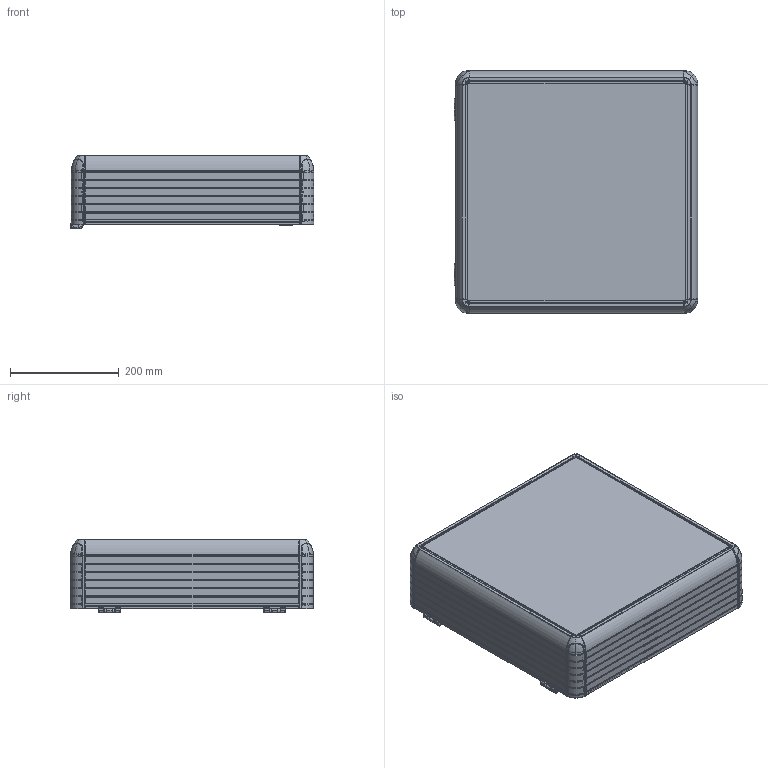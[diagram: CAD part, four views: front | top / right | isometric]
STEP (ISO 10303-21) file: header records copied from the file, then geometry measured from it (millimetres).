
FILE_DESCRIPTION (( 'STEP AP214' ), '1' );
FILE_NAME ('1200-0008.STEP', '2022-04-20T10:31:37', ( '' ), ( '' ), 'SwSTEP 2.0', 'SolidWorks 2022', '' );
FILE_SCHEMA (( 'AUTOMOTIVE_DESIGN' ));
Length unit declared in the file: millimetre
Products named in the file (5): ECO1200-0000; HPECO-120-001-295_395; ARKA_KAPAK_400X400; 1200-0008; 400X400
Assembly tree (10 placements, depth 2):
  1200-0008
    400X400
    ARKA_KAPAK_400X400
    HPECO-120-001-295_395  x4
    ECO1200-0000  x4
Bounding box: 449.03 x 447 x 136.15 mm (x, y, z)
Volume: 4072404.3 mm3; surface area: 1385222.9 mm2
Topology: 18 solids, 68 shells, 5793 faces, 15616 edges, 9766 vertices
Faces by surface type: plane 2417, cylinder 1464, bspline 1056, cone 566, torus 244, sphere 46
Entity records: 145180 total; most frequent: CARTESIAN_POINT 34690, ORIENTED_EDGE 17332, DIRECTION 15223, EDGE_CURVE 8666, AXIS2_PLACEMENT_3D 5603, VERTEX_POINT 5389, VECTOR 4017, LINE 4017
